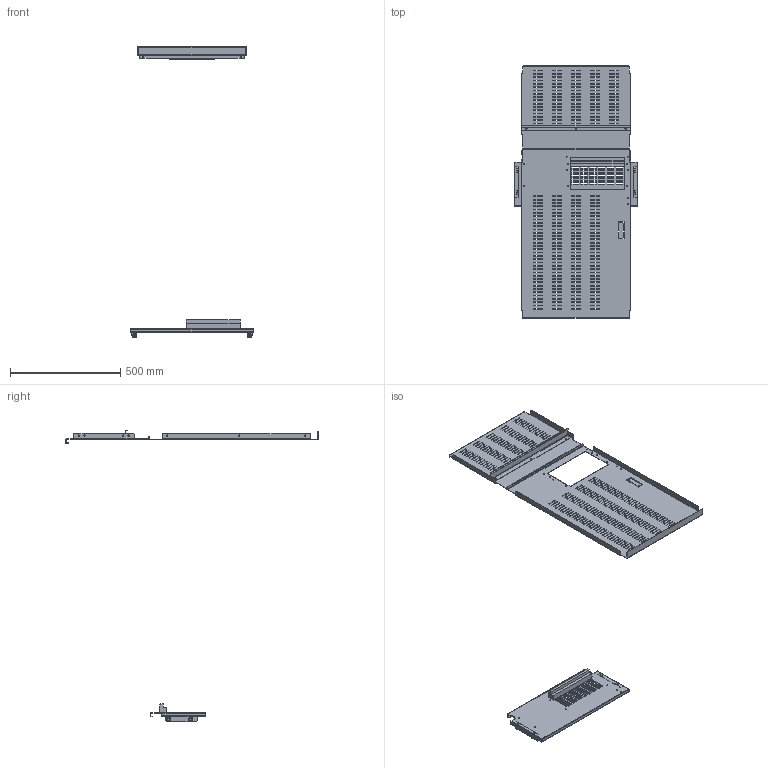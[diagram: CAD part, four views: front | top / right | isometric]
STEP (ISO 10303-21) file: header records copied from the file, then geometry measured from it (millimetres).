
FILE_DESCRIPTION(('CAx-IF Rec.Pracs.---Model Styling and Organization---1.2---2011-12-15','CAx-IF Rec.Pracs.---Geometric and Assembly Validation Properties---4.1---2014-06-16','CAx-IF Rec.Pracs.---PMI Polyline Presentation---2.0---2013-05-24'),'2;1');
FILE_NAME('R5M2UBFRNG12 (2200x600x(400+800)) (3).stp','2021-05-05T12:06:08+03:00',(''),(''),'STEP Interface 4.4 by CT CoreTechnologie','3D_Evolution4.4 by CT CoreTechnologie','');
FILE_SCHEMA(('AUTOMOTIVE_DESIGN { 1 0 10303 214 1 1 1 1 }'));
Length unit declared in the file: millimetre
Products named in the file (11): R5M2UBFRNG12 (2000õ600õ; RB.0837.00.00.0_-01; RB.0792.00.00.0_-00; RB.0834.00.00.1_-01; M8x16-DIN 6921_thread; RB.1735.00.00.0; M8-DIN 6923 (CM100800)_thread; M6x16-DIN 7985 ISR_stright; RB.0835.00.00.0_-00; RB.0839.00.00.0; RB.0837.00.00.0_-00
Assembly tree (19 placements, depth 2):
  R5M2UBFRNG12 (2000õ600õ
    RB.0837.00.00.0_-01
    RB.0792.00.00.0_-00
    RB.0834.00.00.1_-01
    M8x16-DIN 6921_thread  x4
    RB.1735.00.00.0
    M8-DIN 6923 (CM100800)_thread  x4
    M6x16-DIN 7985 ISR_stright  x4
    RB.0835.00.00.0_-00
    RB.0839.00.00.0
    RB.0837.00.00.0_-00
Bounding box: 559 x 1145.5 x 1324 mm (x, y, z)
Surface area: 1693287.4 mm2 (no closed solid volume)
Topology: 0 solids, 23 shells, 1901 faces, 5198 edges, 3333 vertices
Faces by surface type: plane 1396, bspline 264, cylinder 241
Entity records: 54278 total; most frequent: CARTESIAN_POINT 10660, ORIENTED_EDGE 9132, DIRECTION 8018, EDGE_CURVE 4568, VECTOR 4084, LINE 4084, VERTEX_POINT 2985, EDGE_LOOP 2247
